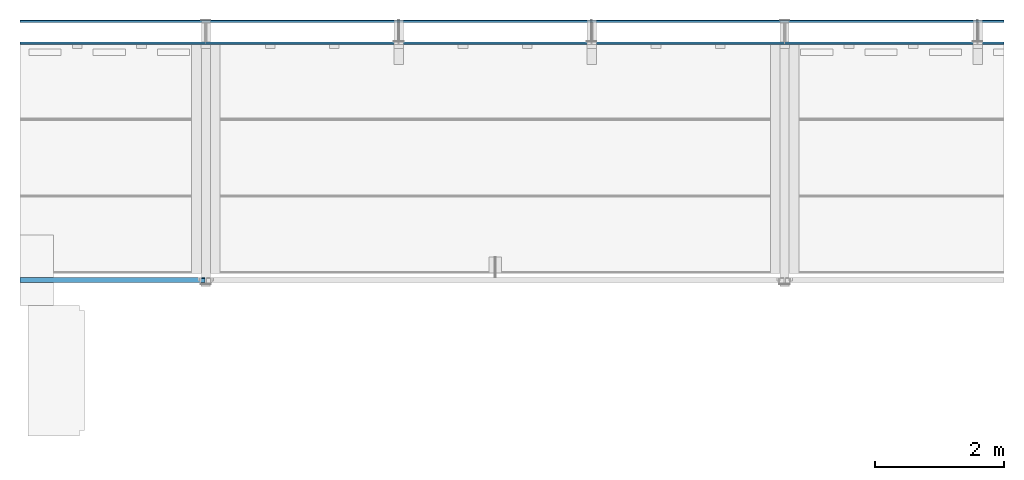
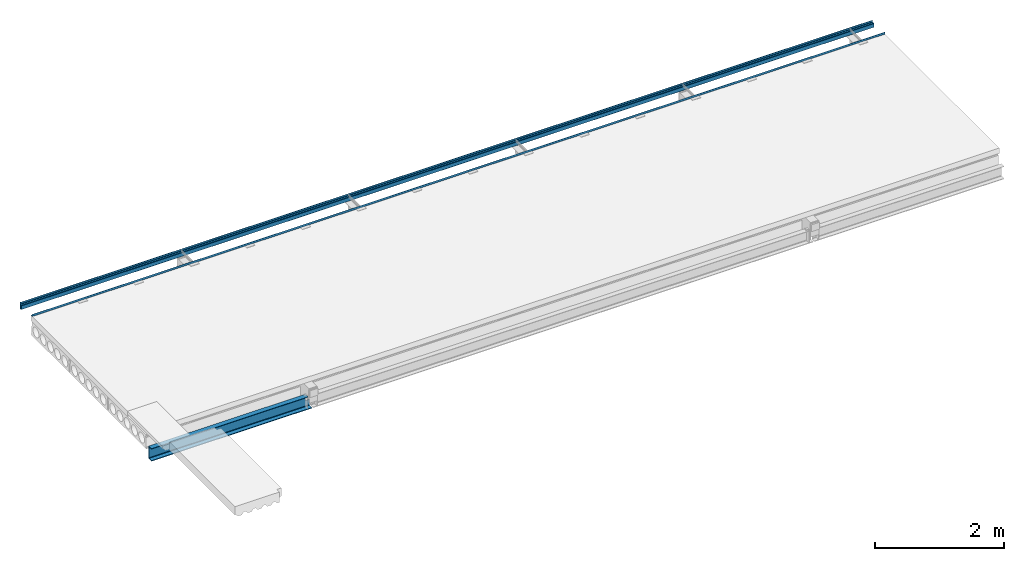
# One storey, part 7 of 8: 4 beams.
"""IFC2X3 building model written with IfcOpenShell, lengths in millimetres."""

from ifc_helpers import new_model, entity, si_unit, converted_unit, derived_unit, direction, frame, origin_with_axes, place, context, subcontext, project, spatial, faceted_brep, type_object, element, save


model = new_model("IFC2X3")

# Units and contexts
model_context = context("Model", 3, precision=0.01, world=frame((0.0, 4.29681676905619e-09, 0.0)), true_north=direction((4.01073788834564e-13, 1.0)))
plan_context = context("Plan", 3, precision=0.01, world=frame((0.0, 4.29681676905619e-09, 0.0)), true_north=direction((4.01073788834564e-13, 1.0)))
body_context = subcontext(model_context, "Body", "Model", "MODEL_VIEW")
ifc_project = project(units=[converted_unit("PLANEANGLEUNIT", "DEGREE", entity("IfcPositiveLengthMeasure", 0.0174532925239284), si_unit("PLANEANGLEUNIT", "RADIAN"), dimensions=[0, 0, 0, 0, 0, 0, 0]), si_unit("AREAUNIT", "SQUARE_METRE"), si_unit("LENGTHUNIT", "METRE", prefix="MILLI"), si_unit("MASSUNIT", "GRAM", prefix="KILO"), si_unit("POWERUNIT", "WATT"), si_unit("PRESSUREUNIT", "PASCAL"), si_unit("FORCEUNIT", "NEWTON", prefix="KILO"), si_unit("ELECTRICVOLTAGEUNIT", "VOLT"), si_unit("ELECTRICCURRENTUNIT", "AMPERE"), si_unit("THERMODYNAMICTEMPERATUREUNIT", "DEGREE_CELSIUS"), si_unit("TIMEUNIT", "SECOND"), si_unit("VOLUMEUNIT", "CUBIC_METRE"), derived_unit("LINEARVELOCITYUNIT", [(si_unit("LENGTHUNIT", "METRE"), 1), (si_unit("TIMEUNIT", "SECOND"), -1)]), derived_unit("VOLUMETRICFLOWRATEUNIT", [(si_unit("VOLUMEUNIT", "CUBIC_METRE"), 1), (si_unit("TIMEUNIT", "SECOND"), -1)]), derived_unit("THERMALTRANSMITTANCEUNIT", [(si_unit("POWERUNIT", "WATT"), 1), (si_unit("THERMODYNAMICTEMPERATUREUNIT", "KELVIN"), -1), (si_unit("AREAUNIT", "SQUARE_METRE"), -1)]), derived_unit("SOUNDPRESSUREUNIT", [(si_unit("PRESSUREUNIT", "PASCAL"), 1)])], contexts=[model_context, plan_context])

# Site, building, storey
site_placement = place(None, frame((0.0, -4.29681676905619e-09, 0.0), z_axis=(0.0, 0.0, 1.0), x_axis=(1.0, 0.0, 0.0)))
site = spatial("IfcSite", under=ifc_project, at=site_placement, Name="Gardermoen", CompositionType="ELEMENT")
building_placement = place(site_placement, frame((0.0, 4.29681676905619e-09, 0.0), z_axis=(0.0, 0.0, 1.0), x_axis=(1.0, 0.0, 0.0)))
building = spatial("IfcBuilding", under=site, at=building_placement, Name="TH", CompositionType="ELEMENT")
storey_placement = place(building_placement, origin_with_axes())
storey = spatial("IfcBuildingStorey", under=building, at=storey_placement, Name="G", CompositionType="ELEMENT", Elevation=0.0)

# Beams
beam_type_1 = type_object("IfcBeamType", Name="L40*4", PredefinedType="NOTDEFINED")
beam_1_placement = place(storey_placement, frame((951904.980629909, 484460.000949, 213680.131519), z_axis=(6.61744490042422e-24, 0.0, 1.0), x_axis=(-1.0, 0.0, 6.61744490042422e-24)))
element("IfcBeam", 1, at=beam_1_placement, inside=storey, type_object=beam_type_1, Name="STÅLBJELKE", ObjectType="L40*4", context=body_context, shape_type="Brep", body=[
    faceted_brep([(41494.3957881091, 20.0, 20.0000000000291), (41494.3957881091, 20.0, -19.9999999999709), (56793.0744613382, 20.0, -19.9999999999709), (56793.0744613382, 20.0, 20.0000000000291), (41494.3957881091, -20.0, -19.9999999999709), (56793.0744613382, -20.0, -19.9999999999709), (41494.3957881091, -20.0, -18.9999999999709), (56793.0744613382, -20.0, -18.9999999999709), (41494.3957881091, -19.9423558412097, -18.4147290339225), (56793.0744613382, -19.9423558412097, -18.4147290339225), (41494.3957881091, -19.7716385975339, -17.8519497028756), (56793.0744613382, -19.7716385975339, -17.8519497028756), (41494.3957881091, -19.4944088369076, -17.3332893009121), (56793.0744613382, -19.4944088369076, -17.3332893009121), (41494.3957881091, -19.1213203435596, -16.8786796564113), (56793.0744613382, -19.1213203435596, -16.8786796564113), (41494.3957881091, -18.6667106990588, -16.5055911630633), (56793.0744613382, -18.6667106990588, -16.5055911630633), (41494.3957881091, -18.1480502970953, -16.228361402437), (56793.0744613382, -18.1480502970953, -16.228361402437), (41494.3957881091, -17.5852709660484, -16.0576441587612), (56793.0744613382, -17.5852709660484, -16.0576441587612), (41494.3957881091, -17.0, -15.9999999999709), (56793.0744613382, -17.0, -15.9999999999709), (41494.3957881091, 10.0, -15.9999999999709), (56793.0744613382, 10.0, -15.9999999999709), (41494.3957881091, 11.1705419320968, -15.8847116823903), (56793.0744613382, 11.1705419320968, -15.8847116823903), (41494.3957881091, 12.2961005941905, -15.5432771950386), (56793.0744613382, 12.2961005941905, -15.5432771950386), (41494.3957881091, 13.3334213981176, -14.9888176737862), (56793.0744613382, 13.3334213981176, -14.9888176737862), (41494.3957881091, 14.2426406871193, -14.2426406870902), (56793.0744613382, 14.2426406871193, -14.2426406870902), (41494.3957881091, 14.9888176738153, -13.3334213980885), (56793.0744613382, 14.9888176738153, -13.3334213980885), (41494.3957881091, 15.5432771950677, -12.2961005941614), (56793.0744613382, 15.5432771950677, -12.2961005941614), (41494.3957881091, 15.8847116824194, -11.1705419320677), (56793.0744613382, 15.8847116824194, -11.1705419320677), (41494.3957881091, 16.0, -9.9999999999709), (56793.0744613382, 16.0, -9.9999999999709), (41494.3957881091, 16.0, 17.0000000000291), (56793.0744613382, 16.0, 17.0000000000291), (41494.3957881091, 16.0576441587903, 17.5852709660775), (56793.0744613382, 16.0576441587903, 17.5852709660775), (41494.3957881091, 16.2283614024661, 18.1480502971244), (56793.0744613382, 16.2283614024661, 18.1480502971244), (41494.3957881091, 16.5055911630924, 18.6667106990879), (56793.0744613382, 16.5055911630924, 18.6667106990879), (41494.3957881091, 16.8786796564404, 19.1213203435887), (56793.0744613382, 16.8786796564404, 19.1213203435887), (41494.3957881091, 17.3332893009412, 19.4944088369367), (56793.0744613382, 17.3332893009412, 19.4944088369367), (41494.3957881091, 17.8519497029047, 19.771638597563), (56793.0744613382, 17.8519497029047, 19.771638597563), (41494.3957881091, 18.4147290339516, 19.9423558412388), (56793.0744613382, 18.4147290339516, 19.9423558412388), (41494.3957881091, 19.0, 20.0000000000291), (56793.0744613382, 19.0, 20.0000000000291)], [[[0, 1, 2, 3]], [[1, 4, 5, 2]], [[4, 6, 7, 5]], [[6, 8, 9, 7]], [[8, 10, 11, 9]], [[10, 12, 13, 11]], [[12, 14, 15, 13]], [[14, 16, 17, 15]], [[16, 18, 19, 17]], [[18, 20, 21, 19]], [[20, 22, 23, 21]], [[22, 24, 25, 23]], [[24, 26, 27, 25]], [[26, 28, 29, 27]], [[28, 30, 31, 29]], [[30, 32, 33, 31]], [[32, 34, 35, 33]], [[34, 36, 37, 35]], [[36, 38, 39, 37]], [[38, 40, 41, 39]], [[40, 42, 43, 41]], [[42, 44, 45, 43]], [[44, 46, 47, 45]], [[46, 48, 49, 47]], [[48, 50, 51, 49]], [[50, 52, 53, 51]], [[52, 54, 55, 53]], [[54, 56, 57, 55]], [[56, 58, 59, 57]], [[58, 0, 3, 59]], [[58, 56, 54, 52, 50, 48, 46, 44, 42, 40, 38, 36, 34, 32, 30, 28, 26, 24, 22, 20, 18, 16, 14, 12, 10, 8, 6, 4, 1, 0]], [[5, 7, 9, 11, 13, 15, 17, 19, 21, 23, 25, 27, 29, 31, 33, 35, 37, 39, 41, 43, 45, 47, 49, 51, 53, 55, 57, 59, 3, 2]]], orient=[[False], [False], [False], [False], [False], [False], [False], [False], [False], [False], [False], [False], [False], [False], [False], [False], [False], [False], [False], [False], [False], [False], [False], [False], [False], [False], [False], [False], [False], [False], [False], [False]]),
])
beam_2_placement = place(storey_placement, frame((888930.000404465, 484799.999790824, 213680.131706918), z_axis=(0.0, 0.0, 1.0), x_axis=(1.0, 0.0, 0.0)))
element("IfcBeam", 2, at=beam_2_placement, inside=storey, type_object=beam_type_1, Name="STÅLBJELKE", ObjectType="L40*4", context=body_context, shape_type="Brep", body=[
    faceted_brep([(6181.90576410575, 20.0, 20.0), (6181.90576410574, 20.0, -20.0), (21480.5844373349, 20.0, -20.0), (21480.5844373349, 20.0, 20.0), (6181.90576410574, -20.0, -20.0), (21480.5844373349, -20.0, -20.0), (6181.90576410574, -20.0, -19.0), (21480.5844373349, -20.0, -19.0), (6181.90576410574, -19.9423558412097, -18.4147290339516), (21480.5844373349, -19.9423558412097, -18.4147290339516), (6181.90576410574, -19.7716385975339, -17.8519497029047), (21480.5844373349, -19.7716385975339, -17.8519497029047), (6181.90576410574, -19.4944088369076, -17.3332893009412), (21480.5844373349, -19.4944088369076, -17.3332893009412), (6181.90576410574, -19.1213203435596, -16.8786796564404), (21480.5844373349, -19.1213203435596, -16.8786796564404), (6181.90576410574, -18.6667106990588, -16.5055911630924), (21480.5844373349, -18.6667106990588, -16.5055911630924), (6181.90576410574, -18.1480502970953, -16.2283614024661), (21480.5844373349, -18.1480502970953, -16.2283614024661), (6181.90576410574, -17.5852709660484, -16.0576441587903), (21480.5844373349, -17.5852709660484, -16.0576441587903), (6181.90576410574, -17.0, -16.0), (21480.5844373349, -17.0, -16.0), (6181.90576410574, 10.0, -16.0), (21480.5844373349, 10.0, -16.0), (6181.90576410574, 11.1705419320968, -15.8847116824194), (21480.5844373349, 11.1705419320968, -15.8847116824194), (6181.90576410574, 12.2961005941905, -15.5432771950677), (21480.5844373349, 12.2961005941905, -15.5432771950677), (6181.90576410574, 13.3334213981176, -14.9888176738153), (21480.5844373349, 13.3334213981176, -14.9888176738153), (6181.90576410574, 14.2426406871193, -14.2426406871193), (21480.5844373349, 14.2426406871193, -14.2426406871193), (6181.90576410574, 14.9888176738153, -13.3334213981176), (21480.5844373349, 14.9888176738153, -13.3334213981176), (6181.90576410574, 15.5432771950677, -12.2961005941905), (21480.5844373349, 15.5432771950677, -12.2961005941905), (6181.90576410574, 15.8847116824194, -11.1705419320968), (21480.5844373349, 15.8847116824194, -11.1705419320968), (6181.90576410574, 16.0, -10.0), (21480.5844373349, 16.0, -10.0), (6181.90576410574, 16.0, 17.0), (21480.5844373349, 16.0, 17.0), (6181.90576410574, 16.0576441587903, 17.5852709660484), (21480.5844373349, 16.0576441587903, 17.5852709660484), (6181.90576410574, 16.2283614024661, 18.1480502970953), (21480.5844373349, 16.2283614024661, 18.1480502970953), (6181.90576410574, 16.5055911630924, 18.6667106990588), (21480.5844373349, 16.5055911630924, 18.6667106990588), (6181.90576410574, 16.8786796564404, 19.1213203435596), (21480.5844373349, 16.8786796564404, 19.1213203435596), (6181.90576410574, 17.3332893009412, 19.4944088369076), (21480.5844373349, 17.3332893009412, 19.4944088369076), (6181.90576410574, 17.8519497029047, 19.7716385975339), (21480.5844373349, 17.8519497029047, 19.7716385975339), (6181.90576410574, 18.4147290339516, 19.9423558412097), (21480.5844373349, 18.4147290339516, 19.9423558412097), (6181.90576410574, 19.0, 20.0), (21480.5844373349, 19.0, 20.0)], [[[0, 1, 2, 3]], [[1, 4, 5, 2]], [[4, 6, 7, 5]], [[6, 8, 9, 7]], [[8, 10, 11, 9]], [[10, 12, 13, 11]], [[12, 14, 15, 13]], [[14, 16, 17, 15]], [[16, 18, 19, 17]], [[18, 20, 21, 19]], [[20, 22, 23, 21]], [[22, 24, 25, 23]], [[24, 26, 27, 25]], [[26, 28, 29, 27]], [[28, 30, 31, 29]], [[30, 32, 33, 31]], [[32, 34, 35, 33]], [[34, 36, 37, 35]], [[36, 38, 39, 37]], [[38, 40, 41, 39]], [[40, 42, 43, 41]], [[42, 44, 45, 43]], [[44, 46, 47, 45]], [[46, 48, 49, 47]], [[48, 50, 51, 49]], [[50, 52, 53, 51]], [[52, 54, 55, 53]], [[54, 56, 57, 55]], [[56, 58, 59, 57]], [[58, 0, 3, 59]], [[5, 7, 9, 11, 13, 15, 17, 19, 21, 23, 25, 27, 29, 31, 33, 35, 37, 39, 41, 43, 45, 47, 49, 51, 53, 55, 57, 59, 3, 2]], [[58, 56, 54, 52, 50, 48, 46, 44, 42, 40, 38, 36, 34, 32, 30, 28, 26, 24, 22, 20, 18, 16, 14, 12, 10, 8, 6, 4, 1, 0]]], orient=[[False], [False], [False], [False], [False], [False], [False], [False], [False], [False], [False], [False], [False], [False], [False], [False], [False], [False], [False], [False], [False], [False], [False], [False], [False], [False], [False], [False], [False], [False], [False], [False]]),
])
beam_type_2 = type_object("IfcBeamType", Name="RHS80*40*5", PredefinedType="NOTDEFINED")
beam_3_placement = place(storey_placement, frame((951904.98223331, 484800.001166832, 213620.131614), z_axis=(6.61744490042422e-24, 0.0, 1.0), x_axis=(-1.0, 0.0, 6.61744490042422e-24)))
element("IfcBeam", 3, at=beam_3_placement, inside=storey, type_object=beam_type_2, Name="STÅLBJELKE", ObjectType="RHS80*40*5", context=body_context, shape_type="Brep", body=[
    faceted_brep([(41494.3973915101, -10.0, -35.0), (41494.3973915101, 10.0, -35.0), (56793.0760647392, 10.0, -35.0), (56793.0760647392, -10.0, -35.0), (41494.3973915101, 10.9754516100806, -34.9039264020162), (56793.0760647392, 10.9754516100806, -34.9039264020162), (41494.3973915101, 11.9134171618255, -34.6193976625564), (56793.0760647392, 11.9134171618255, -34.6193976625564), (41494.3973915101, 12.777851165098, -34.1573480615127), (56793.0760647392, 12.777851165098, -34.1573480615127), (41494.3973915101, 13.5355339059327, -33.5355339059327), (56793.0760647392, 13.5355339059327, -33.5355339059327), (41494.3973915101, 14.1573480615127, -32.777851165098), (56793.0760647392, 14.1573480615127, -32.777851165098), (41494.3973915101, 14.6193976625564, -31.9134171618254), (56793.0760647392, 14.6193976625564, -31.9134171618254), (41494.3973915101, 14.9039264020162, -30.9754516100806), (56793.0760647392, 14.9039264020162, -30.9754516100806), (41494.3973915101, 15.0, -30.0), (56793.0760647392, 15.0, -30.0), (41494.3973915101, 15.0, 30.0), (56793.0760647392, 15.0, 30.0), (41494.3973915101, 14.9039264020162, 30.9754516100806), (56793.0760647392, 14.9039264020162, 30.9754516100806), (41494.3973915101, 14.6193976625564, 31.9134171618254), (56793.0760647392, 14.6193976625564, 31.9134171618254), (41494.3973915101, 14.1573480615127, 32.777851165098), (56793.0760647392, 14.1573480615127, 32.777851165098), (41494.3973915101, 13.5355339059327, 33.5355339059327), (56793.0760647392, 13.5355339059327, 33.5355339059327), (41494.3973915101, 12.777851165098, 34.1573480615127), (56793.0760647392, 12.777851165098, 34.1573480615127), (41494.3973915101, 11.9134171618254, 34.6193976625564), (56793.0760647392, 11.9134171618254, 34.6193976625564), (41494.3973915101, 10.9754516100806, 34.9039264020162), (56793.0760647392, 10.9754516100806, 34.9039264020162), (41494.3973915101, 10.0, 35.0), (56793.0760647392, 10.0, 35.0), (41494.3973915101, -10.0, 35.0), (56793.0760647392, -10.0, 35.0), (41494.3973915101, -10.9754516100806, 34.9039264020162), (56793.0760647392, -10.9754516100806, 34.9039264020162), (41494.3973915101, -11.9134171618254, 34.6193976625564), (56793.0760647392, -11.9134171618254, 34.6193976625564), (41494.3973915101, -12.777851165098, 34.1573480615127), (56793.0760647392, -12.777851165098, 34.1573480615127), (41494.3973915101, -13.5355339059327, 33.5355339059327), (56793.0760647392, -13.5355339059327, 33.5355339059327), (41494.3973915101, -14.1573480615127, 32.777851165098), (56793.0760647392, -14.1573480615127, 32.777851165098), (41494.3973915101, -14.6193976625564, 31.9134171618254), (56793.0760647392, -14.6193976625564, 31.9134171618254), (41494.3973915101, -14.9039264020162, 30.9754516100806), (56793.0760647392, -14.9039264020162, 30.9754516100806), (41494.3973915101, -15.0, 30.0), (56793.0760647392, -15.0, 30.0), (41494.3973915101, -15.0, -30.0), (56793.0760647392, -15.0, -30.0), (41494.3973915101, -14.9039264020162, -30.9754516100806), (56793.0760647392, -14.9039264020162, -30.9754516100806), (41494.3973915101, -14.6193976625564, -31.9134171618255), (56793.0760647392, -14.6193976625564, -31.9134171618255), (41494.3973915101, -14.1573480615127, -32.777851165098), (56793.0760647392, -14.1573480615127, -32.777851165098), (41494.3973915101, -13.5355339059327, -33.5355339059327), (56793.0760647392, -13.5355339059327, -33.5355339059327), (41494.3973915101, -12.777851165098, -34.1573480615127), (56793.0760647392, -12.777851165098, -34.1573480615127), (41494.3973915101, -11.9134171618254, -34.6193976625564), (56793.0760647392, -11.9134171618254, -34.6193976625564), (41494.3973915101, -10.9754516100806, -34.9039264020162), (56793.0760647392, -10.9754516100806, -34.9039264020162), (41494.3973915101, 10.0, -40.0), (41494.3973915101, -10.0, -40.0), (56793.0760647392, -10.0, -40.0), (56793.0760647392, 10.0, -40.0), (41494.3973915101, -11.9509032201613, -39.8078528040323), (56793.0760647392, -11.9509032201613, -39.8078528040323), (41494.3973915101, -13.8268343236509, -39.2387953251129), (56793.0760647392, -13.8268343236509, -39.2387953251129), (41494.3973915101, -15.555702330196, -38.3146961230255), (56793.0760647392, -15.555702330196, -38.3146961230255), (41494.3973915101, -17.0710678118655, -37.0710678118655), (56793.0760647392, -17.0710678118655, -37.0710678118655), (41494.3973915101, -18.3146961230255, -35.555702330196), (56793.0760647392, -18.3146961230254, -35.555702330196), (41494.3973915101, -19.2387953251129, -33.8268343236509), (56793.0760647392, -19.2387953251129, -33.8268343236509), (41494.3973915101, -19.8078528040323, -31.9509032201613), (56793.0760647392, -19.8078528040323, -31.9509032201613), (41494.3973915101, -20.0, -30.0), (56793.0760647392, -20.0, -30.0), (41494.3973915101, -20.0, 30.0), (56793.0760647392, -20.0, 30.0), (41494.3973915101, -19.8078528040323, 31.9509032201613), (56793.0760647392, -19.8078528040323, 31.9509032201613), (41494.3973915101, -19.2387953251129, 33.8268343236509), (56793.0760647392, -19.2387953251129, 33.8268343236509), (41494.3973915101, -18.3146961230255, 35.555702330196), (56793.0760647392, -18.3146961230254, 35.555702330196), (41494.3973915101, -17.0710678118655, 37.0710678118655), (56793.0760647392, -17.0710678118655, 37.0710678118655), (41494.3973915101, -15.555702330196, 38.3146961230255), (56793.0760647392, -15.555702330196, 38.3146961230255), (41494.3973915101, -13.8268343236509, 39.2387953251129), (56793.0760647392, -13.8268343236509, 39.2387953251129), (41494.3973915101, -11.9509032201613, 39.8078528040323), (56793.0760647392, -11.9509032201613, 39.8078528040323), (41494.3973915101, -10.0, 40.0), (56793.0760647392, -10.0, 40.0), (41494.3973915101, 10.0, 40.0), (56793.0760647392, 10.0, 40.0), (41494.3973915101, 11.9509032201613, 39.8078528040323), (56793.0760647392, 11.9509032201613, 39.8078528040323), (41494.3973915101, 13.8268343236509, 39.2387953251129), (56793.0760647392, 13.8268343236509, 39.2387953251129), (41494.3973915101, 15.555702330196, 38.3146961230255), (56793.0760647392, 15.555702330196, 38.3146961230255), (41494.3973915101, 17.0710678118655, 37.0710678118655), (56793.0760647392, 17.0710678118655, 37.0710678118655), (41494.3973915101, 18.3146961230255, 35.555702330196), (56793.0760647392, 18.3146961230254, 35.555702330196), (41494.3973915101, 19.2387953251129, 33.8268343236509), (56793.0760647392, 19.2387953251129, 33.8268343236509), (41494.3973915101, 19.8078528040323, 31.9509032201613), (56793.0760647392, 19.8078528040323, 31.9509032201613), (41494.3973915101, 20.0, 30.0), (56793.0760647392, 20.0, 30.0), (41494.3973915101, 20.0, -30.0), (56793.0760647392, 20.0, -30.0), (41494.3973915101, 19.8078528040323, -31.9509032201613), (56793.0760647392, 19.8078528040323, -31.9509032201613), (41494.3973915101, 19.2387953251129, -33.8268343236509), (56793.0760647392, 19.2387953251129, -33.8268343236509), (41494.3973915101, 18.3146961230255, -35.555702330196), (56793.0760647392, 18.3146961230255, -35.555702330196), (41494.3973915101, 17.0710678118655, -37.0710678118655), (56793.0760647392, 17.0710678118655, -37.0710678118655), (41494.3973915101, 15.555702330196, -38.3146961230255), (56793.0760647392, 15.555702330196, -38.3146961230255), (41494.3973915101, 13.8268343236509, -39.2387953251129), (56793.0760647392, 13.8268343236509, -39.2387953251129), (41494.3973915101, 11.9509032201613, -39.8078528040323), (56793.0760647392, 11.9509032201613, -39.8078528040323)], [[[0, 1, 2, 3]], [[1, 4, 5, 2]], [[4, 6, 7, 5]], [[6, 8, 9, 7]], [[8, 10, 11, 9]], [[10, 12, 13, 11]], [[12, 14, 15, 13]], [[14, 16, 17, 15]], [[16, 18, 19, 17]], [[18, 20, 21, 19]], [[20, 22, 23, 21]], [[22, 24, 25, 23]], [[24, 26, 27, 25]], [[26, 28, 29, 27]], [[28, 30, 31, 29]], [[30, 32, 33, 31]], [[32, 34, 35, 33]], [[34, 36, 37, 35]], [[36, 38, 39, 37]], [[38, 40, 41, 39]], [[40, 42, 43, 41]], [[42, 44, 45, 43]], [[44, 46, 47, 45]], [[46, 48, 49, 47]], [[48, 50, 51, 49]], [[50, 52, 53, 51]], [[52, 54, 55, 53]], [[54, 56, 57, 55]], [[56, 58, 59, 57]], [[58, 60, 61, 59]], [[60, 62, 63, 61]], [[62, 64, 65, 63]], [[64, 66, 67, 65]], [[66, 68, 69, 67]], [[68, 70, 71, 69]], [[70, 0, 3, 71]], [[72, 73, 74, 75]], [[73, 76, 77, 74]], [[76, 78, 79, 77]], [[78, 80, 81, 79]], [[80, 82, 83, 81]], [[82, 84, 85, 83]], [[84, 86, 87, 85]], [[86, 88, 89, 87]], [[88, 90, 91, 89]], [[90, 92, 93, 91]], [[92, 94, 95, 93]], [[94, 96, 97, 95]], [[96, 98, 99, 97]], [[98, 100, 101, 99]], [[100, 102, 103, 101]], [[102, 104, 105, 103]], [[104, 106, 107, 105]], [[106, 108, 109, 107]], [[108, 110, 111, 109]], [[110, 112, 113, 111]], [[112, 114, 115, 113]], [[114, 116, 117, 115]], [[116, 118, 119, 117]], [[118, 120, 121, 119]], [[120, 122, 123, 121]], [[122, 124, 125, 123]], [[124, 126, 127, 125]], [[126, 128, 129, 127]], [[128, 130, 131, 129]], [[130, 132, 133, 131]], [[132, 134, 135, 133]], [[134, 136, 137, 135]], [[136, 138, 139, 137]], [[138, 140, 141, 139]], [[140, 142, 143, 141]], [[142, 72, 75, 143]], [[142, 140, 138, 136, 134, 132, 130, 128, 126, 124, 122, 120, 118, 116, 114, 112, 110, 108, 106, 104, 102, 100, 98, 96, 94, 92, 90, 88, 86, 84, 82, 80, 78, 76, 73, 72], [70, 68, 66, 64, 62, 60, 58, 56, 54, 52, 50, 48, 46, 44, 42, 40, 38, 36, 34, 32, 30, 28, 26, 24, 22, 20, 18, 16, 14, 12, 10, 8, 6, 4, 1, 0]], [[77, 79, 81, 83, 85, 87, 89, 91, 93, 95, 97, 99, 101, 103, 105, 107, 109, 111, 113, 115, 117, 119, 121, 123, 125, 127, 129, 131, 133, 135, 137, 139, 141, 143, 75, 74], [5, 7, 9, 11, 13, 15, 17, 19, 21, 23, 25, 27, 29, 31, 33, 35, 37, 39, 41, 43, 45, 47, 49, 51, 53, 55, 57, 59, 61, 63, 65, 67, 69, 71, 3, 2]]], orient=[[False], [False], [False], [False], [False], [False], [False], [False], [False], [False], [False], [False], [False], [False], [False], [False], [False], [False], [False], [False], [False], [False], [False], [False], [False], [False], [False], [False], [False], [False], [False], [False], [False], [False], [False], [False], [False], [False], [False], [False], [False], [False], [False], [False], [False], [False], [False], [False], [False], [False], [False], [False], [False], [False], [False], [False], [False], [False], [False], [False], [False], [False], [False], [False], [False], [False], [False], [False], [False], [False], [False], [False], [False, False], [False, False]]),
])
beam_type_3 = type_object("IfcBeamType", Name="UNP240", PredefinedType="NOTDEFINED")
beam_4_placement = place(storey_placement, frame((897989.999766, 480777.504375, 213280.0), z_axis=(-6.61744490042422e-24, 0.0, -1.0), x_axis=(-1.0, 0.0, 6.61744490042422e-24)))
element("IfcBeam", 4, at=beam_4_placement, inside=storey, type_object=beam_type_3, Name="STÅLBJELKE", ObjectType="UNP240", context=body_context, shape_type="Brep", body=[
    faceted_brep([(2878.09343422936, 42.5, -119.999995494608), (2878.09343422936, 42.5, 120.0), (0.0, 42.5, 120.0), (0.0, 42.5, -3.0), (70.0, 42.5, -3.0), (70.0, 42.5, -120.0), (2878.09343422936, -42.5, -120.0), (2878.09343422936, 42.5, -120.0), (70.0, -42.5, -120.0), (2878.09343422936, -42.5, -116.52), (2878.09343422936, -42.5, -119.999995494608), (69.9999999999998, -42.5, -116.52), (2878.09343422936, -42.375104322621, -115.251912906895), (69.9999999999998, -42.375104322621, -115.251912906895), (2878.09343422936, -42.0052169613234, -114.032557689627), (69.9999999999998, -42.0052169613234, -114.032557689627), (2878.09343422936, -41.4045524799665, -112.908793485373), (69.9999999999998, -41.4045524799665, -112.908793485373), (2878.09343422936, -40.5961940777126, -111.923805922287), (69.9999999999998, -40.5961940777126, -111.923805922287), (2878.09343422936, -39.6112065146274, -111.115447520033), (69.9999999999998, -39.6112065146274, -111.115447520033), (2878.09343422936, -38.4874423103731, -110.514783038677), (69.9999999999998, -38.4874423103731, -110.514783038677), (2878.09343422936, -37.2680870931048, -110.144895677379), (69.9999999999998, -37.2680870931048, -110.144895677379), (2878.09343422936, -36.0, -110.02), (69.9999999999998, -36.0, -110.02), (2878.09343422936, 20.0, -103.98), (69.9999999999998, 20.0, -103.98), (2878.09343422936, 22.5361741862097, -103.730208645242), (69.9999999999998, 22.5361741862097, -103.730208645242), (2878.09343422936, 24.9748846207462, -102.990433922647), (69.9999999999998, 24.9748846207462, -102.990433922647), (2878.09343422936, 27.2224130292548, -101.789104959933), (69.9999999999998, 27.2224130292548, -101.789104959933), (2878.09343422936, 29.1923881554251, -100.172388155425), (69.9999999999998, 29.1923881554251, -100.172388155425), (2878.09343422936, 30.8091049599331, -98.2024130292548), (69.9999999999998, 30.8091049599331, -98.2024130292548), (2878.09343422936, 32.0104339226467, -95.9548846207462), (69.9999999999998, 32.0104339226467, -95.9548846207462), (2878.09343422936, 32.750208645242, -93.5161741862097), (69.9999999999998, 32.750208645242, -93.5161741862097), (2878.09343422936, 33.0, -90.98), (69.9999999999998, 33.0, -90.98), (2878.09343422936, 33.0, 90.98), (70.0, 33.0, -3.0), (0.0, 33.0, -3.0), (0.0, 33.0, 90.98), (2878.09343422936, 32.750208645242, 93.5161741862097), (0.0, 32.750208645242, 93.5161741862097), (2878.09343422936, 32.0104339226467, 95.9548846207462), (0.0, 32.0104339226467, 95.9548846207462), (2878.09343422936, 30.8091049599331, 98.2024130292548), (0.0, 30.8091049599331, 98.2024130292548), (2878.09343422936, 29.1923881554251, 100.172388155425), (0.0, 29.1923881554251, 100.172388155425), (2878.09343422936, 27.2224130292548, 101.789104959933), (0.0, 27.2224130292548, 101.789104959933), (2878.09343422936, 24.9748846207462, 102.990433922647), (0.0, 24.9748846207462, 102.990433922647), (2878.09343422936, 22.5361741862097, 103.730208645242), (0.0, 22.5361741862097, 103.730208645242), (2878.09343422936, 20.0, 103.98), (0.0, 20.0, 103.98), (2878.09343422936, -36.0, 110.02), (0.0, -36.0, 110.02), (2878.09343422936, -37.2680870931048, 110.144895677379), (0.0, -37.2680870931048, 110.144895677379), (2878.09343422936, -38.4874423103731, 110.514783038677), (0.0, -38.4874423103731, 110.514783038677), (2878.09343422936, -39.6112065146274, 111.115447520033), (0.0, -39.6112065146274, 111.115447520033), (2878.09343422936, -40.5961940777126, 111.923805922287), (0.0, -40.5961940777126, 111.923805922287), (2878.09343422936, -41.4045524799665, 112.908793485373), (0.0, -41.4045524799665, 112.908793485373), (2878.09343422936, -42.0052169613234, 114.032557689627), (0.0, -42.0052169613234, 114.032557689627), (2878.09343422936, -42.375104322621, 115.251912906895), (0.0, -42.375104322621, 115.251912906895), (2878.09343422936, -42.5, 116.52), (0.0, -42.5, 116.52), (2878.09343422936, -42.5, 120.0), (0.0, -42.5, 120.0)], [[[0, 1, 2, 3, 4, 5]], [[6, 7, 5, 8]], [[9, 10, 8, 11]], [[12, 9, 11, 13]], [[14, 12, 13, 15]], [[16, 14, 15, 17]], [[18, 16, 17, 19]], [[20, 18, 19, 21]], [[22, 20, 21, 23]], [[24, 22, 23, 25]], [[26, 24, 25, 27]], [[28, 26, 27, 29]], [[30, 28, 29, 31]], [[32, 30, 31, 33]], [[34, 32, 33, 35]], [[36, 34, 35, 37]], [[38, 36, 37, 39]], [[40, 38, 39, 41]], [[42, 40, 41, 43]], [[44, 42, 43, 45]], [[46, 44, 45, 47, 48, 49]], [[50, 46, 49, 51]], [[52, 50, 51, 53]], [[54, 52, 53, 55]], [[56, 54, 55, 57]], [[58, 56, 57, 59]], [[60, 58, 59, 61]], [[62, 60, 61, 63]], [[64, 62, 63, 65]], [[66, 64, 65, 67]], [[68, 66, 67, 69]], [[70, 68, 69, 71]], [[72, 70, 71, 73]], [[74, 72, 73, 75]], [[76, 74, 75, 77]], [[78, 76, 77, 79]], [[80, 78, 79, 81]], [[82, 80, 81, 83]], [[84, 82, 83, 85]], [[1, 84, 85, 2]], [[48, 3, 2, 85, 83, 81, 79, 77, 75, 73, 71, 69, 67, 65, 63, 61, 59, 57, 55, 53, 51, 49]], [[5, 4, 47, 45, 43, 41, 39, 37, 35, 33, 31, 29, 27, 25, 23, 21, 19, 17, 15, 13, 11, 8]], [[4, 3, 48, 47]], [[6, 9, 12, 14, 16, 18, 20, 22, 24, 26, 28, 30, 32, 34, 36, 38, 40, 42, 44, 46, 50, 52, 54, 56, 58, 60, 62, 64, 66, 68, 70, 72, 74, 76, 78, 80, 82, 84, 1, 0]]], orient=[[False], [False], [False], [False], [False], [False], [False], [False], [False], [False], [False], [False], [False], [False], [False], [False], [False], [False], [False], [False], [False], [False], [False], [False], [False], [False], [False], [False], [False], [False], [False], [False], [False], [False], [False], [False], [False], [False], [False], [False], [False], [False], [False], [False]]),
])

save(model, "model.ifc")
